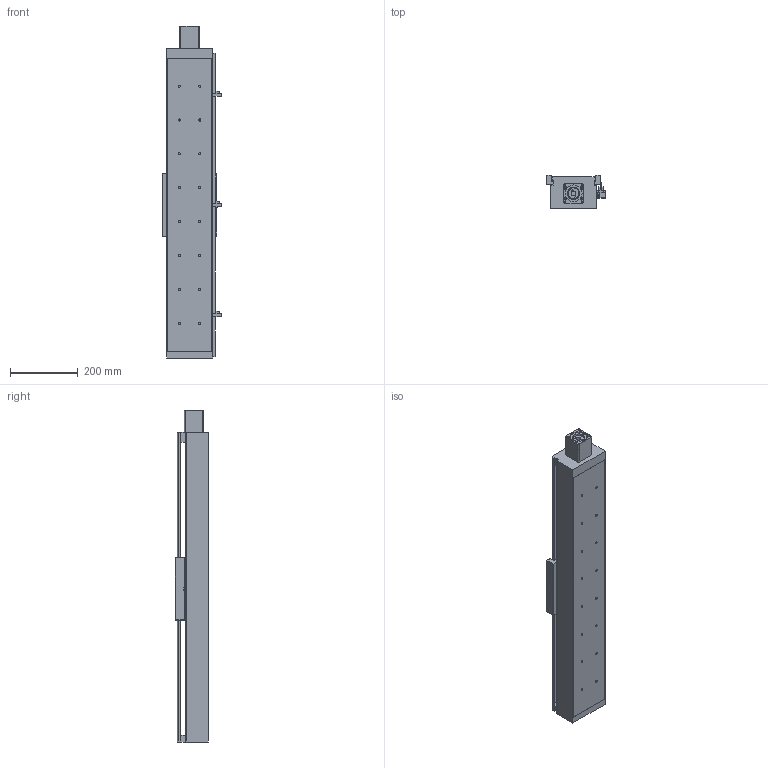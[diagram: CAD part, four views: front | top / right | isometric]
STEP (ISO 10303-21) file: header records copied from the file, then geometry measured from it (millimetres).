
FILE_DESCRIPTION((''),'2;1');
FILE_NAME('E:\libraries\UIA actuator library 2009\standard actuator\UIA136 ball screw 25\UIA136R15NDC-_ _ _-R25_ _, stp file 27Apr16\UIA136R15NDC-650-R25_ _-M60-P13-C10-S.stp','2016-04-28T16:46:39',('h029'),(''),'Autodesk Inventor 11','Autodesk Inventor 11','');
FILE_SCHEMA(('AUTOMOTIVE_DESIGN { 1 0 10303 214 1 1 1 1 }'));
Length unit declared in the file: millimetre
Products named in the file (10): UIA136R15NDC-650; UIA136R15NDC-body; motor mount F60; SOH-32C; SOH-32C-3; SOH-32C-1; SOH-32C-2; Carriage; Sensor Switch; sensor rail
Assembly tree (9 placements, depth 3):
  UIA136R15NDC-650
    UIA136R15NDC-body
    motor mount F60
    SOH-32C
      SOH-32C-3
      SOH-32C-1
      SOH-32C-2
    Carriage
    Sensor Switch
    sensor rail
Bounding box: 174.5 x 98 x 980 mm (x, y, z)
Volume: 3846893.7 mm3; surface area: 1039133.9 mm2
Topology: 8 solids, 8 shells, 504 faces, 1331 edges, 870 vertices
Faces by surface type: plane 322, bspline 134, cylinder 44, cone 4
Full cylindrical faces by diameter (mm): 2.459 x2, 3.242 x2, 4.5 x2, 7 x4, 7.5 x2, 14 x3, 17 x1, 32 x3, 37 x1, 50.3 x1, 50.5 x1
Entity records: 16444 total; most frequent: CARTESIAN_POINT 4700, ORIENTED_EDGE 2272, DIRECTION 2226, EDGE_CURVE 1136, VECTOR 808, LINE 808, VERTEX_POINT 806, EDGE_LOOP 748
